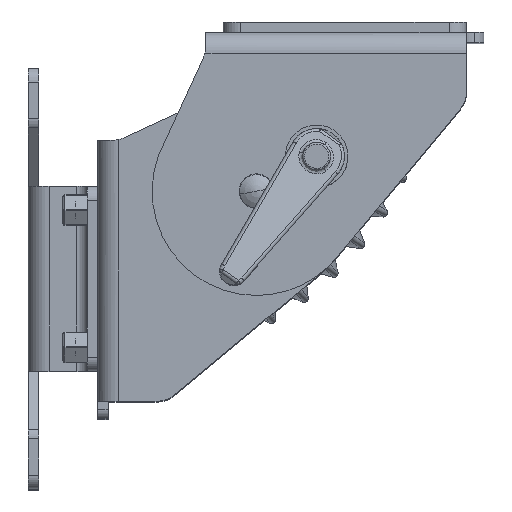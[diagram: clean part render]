
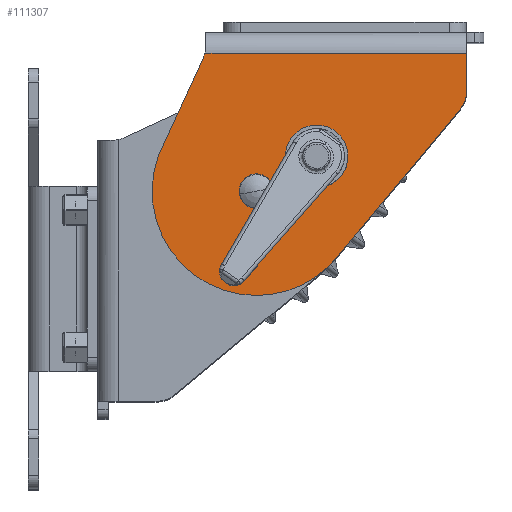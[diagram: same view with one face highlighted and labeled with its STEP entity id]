
A CAD part, top view. The second image highlights one B-rep face of the part: STEP entity #111307.
In plain terms, the highlighted planar face has unit normal (0, 0, 1) as drawn and (1, 0, 0) by its records, which use the part's own axes.
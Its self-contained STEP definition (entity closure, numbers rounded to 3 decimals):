
#617 = DIRECTION ( 'NONE',  ( 0., 1., 0. ) ) ;
#3077 = VERTEX_POINT ( 'NONE', #95033 ) ;
#4394 = DIRECTION ( 'NONE',  ( 1., 0., 0. ) ) ;
#6875 = VECTOR ( 'NONE', #41892, 1000. ) ;
#7262 = DIRECTION ( 'NONE',  ( 0., 0., -1. ) ) ;
#12425 = EDGE_CURVE ( 'NONE', #3077, #238455, #14275, .T. ) ;
#14275 = CIRCLE ( 'NONE', #48404, 8. ) ;
#15811 = ORIENTED_EDGE ( 'NONE', *, *, #273727, .F. ) ;
#17151 = CARTESIAN_POINT ( 'NONE',  ( 988.398, 293.008, -6. ) ) ;
#19291 = VERTEX_POINT ( 'NONE', #132619 ) ;
#21865 = EDGE_CURVE ( 'NONE', #19291, #111911, #114051, .T. ) ;
#29605 = EDGE_CURVE ( 'NONE', #104891, #79700, #173375, .T. ) ;
#30933 = VERTEX_POINT ( 'NONE', #84661 ) ;
#33000 = CARTESIAN_POINT ( 'NONE',  ( 988.398, 229.384, -42.501 ) ) ;
#33747 = CARTESIAN_POINT ( 'NONE',  ( 988.398, 229.384, -48.901 ) ) ;
#38878 = CIRCLE ( 'NONE', #169400, 8.1 ) ;
#38989 = VERTEX_POINT ( 'NONE', #48142 ) ;
#41161 = VECTOR ( 'NONE', #252661, 1000. ) ;
#41892 = DIRECTION ( 'NONE',  ( 0., -0.419, -0.908 ) ) ;
#43208 = VERTEX_POINT ( 'NONE', #99432 ) ;
#46799 = CIRCLE ( 'NONE', #103604, 30. ) ;
#47359 = CARTESIAN_POINT ( 'NONE',  ( 988.398, 232.584, -45.701 ) ) ;
#48142 = CARTESIAN_POINT ( 'NONE',  ( 988.398, 217.274, -7.442 ) ) ;
#48151 = CARTESIAN_POINT ( 'NONE',  ( 988.398, 285.008, -17.095 ) ) ;
#48404 = AXIS2_PLACEMENT_3D ( 'NONE', #48151, #109382, #69483 ) ;
#48926 = CARTESIAN_POINT ( 'NONE',  ( 988.398, 291.158, -22.212 ) ) ;
#49422 = EDGE_CURVE ( 'NONE', #238455, #200160, #213658, .T. ) ;
#50636 = DIRECTION ( 'NONE',  ( -1., 0., 0. ) ) ;
#63189 = LINE ( 'NONE', #268285, #6875 ) ;
#64739 = EDGE_CURVE ( 'NONE', #79700, #230853, #46799, .T. ) ;
#64860 = CARTESIAN_POINT ( 'NONE',  ( 988.398, 204.502, -35.149 ) ) ;
#65596 = VECTOR ( 'NONE', #264100, 1000. ) ;
#69483 = DIRECTION ( 'NONE',  ( 0., 0., -1. ) ) ;
#70965 = CARTESIAN_POINT ( 'NONE',  ( 988.398, 293.008, -17.095 ) ) ;
#71970 = ORIENTED_EDGE ( 'NONE', *, *, #123021, .T. ) ;
#73808 = CARTESIAN_POINT ( 'NONE',  ( 988.398, 232.584, -75.701 ) ) ;
#79700 = VERTEX_POINT ( 'NONE', #73808 ) ;
#80024 = CARTESIAN_POINT ( 'NONE',  ( 988.398, 249.905, -27.601 ) ) ;
#84661 = CARTESIAN_POINT ( 'NONE',  ( 988.398, 217.778, -6. ) ) ;
#86035 = VERTEX_POINT ( 'NONE', #80024 ) ;
#86556 = FACE_BOUND ( 'NONE', #91134, .T. ) ;
#90810 = LINE ( 'NONE', #240573, #193846 ) ;
#91134 = EDGE_LOOP ( 'NONE', ( #96482, #15811 ) ) ;
#93377 = CARTESIAN_POINT ( 'NONE',  ( 988.398, 249.905, -35.701 ) ) ;
#93903 = CARTESIAN_POINT ( 'NONE',  ( 988.398, 229.384, -48.901 ) ) ;
#95014 = CARTESIAN_POINT ( 'NONE',  ( 988.398, 235.784, -42.501 ) ) ;
#95033 = CARTESIAN_POINT ( 'NONE',  ( 988.398, 291.158, -22.212 ) ) ;
#95244 = ORIENTED_EDGE ( 'NONE', *, *, #21865, .F. ) ;
#95469 = AXIS2_PLACEMENT_3D ( 'NONE', #262127, #50636, #135093 ) ;
#96482 = ORIENTED_EDGE ( 'NONE', *, *, #246410, .F. ) ;
#97780 = CARTESIAN_POINT ( 'NONE',  ( 988.398, 293.008, -6. ) ) ;
#98350 = DIRECTION ( 'NONE',  ( 0., 0., -1. ) ) ;
#98408 = EDGE_CURVE ( 'NONE', #111911, #182643, #90810, .T. ) ;
#99432 = CARTESIAN_POINT ( 'NONE',  ( 988.398, 249.905, -43.801 ) ) ;
#99982 = LINE ( 'NONE', #214769, #179591 ) ;
#103604 = AXIS2_PLACEMENT_3D ( 'NONE', #47359, #237549, #174399 ) ;
#104891 = VERTEX_POINT ( 'NONE', #64860 ) ;
#105094 = DIRECTION ( 'NONE',  ( 0., 1., 0. ) ) ;
#108218 = EDGE_LOOP ( 'NONE', ( #176818, #95244, #235056, #129176 ) ) ;
#108312 = ORIENTED_EDGE ( 'NONE', *, *, #119712, .T. ) ;
#109382 = DIRECTION ( 'NONE',  ( 1., 0., 0. ) ) ;
#110930 = DIRECTION ( 'NONE',  ( 0., 0., -1. ) ) ;
#111307 = ADVANCED_FACE ( 'NONE', ( #123109, #199469, #86556 ), #116990, .T. ) ;
#111911 = VERTEX_POINT ( 'NONE', #95014 ) ;
#114051 = LINE ( 'NONE', #180324, #41161 ) ;
#114930 = ORIENTED_EDGE ( 'NONE', *, *, #12425, .T. ) ;
#116990 = PLANE ( 'NONE',  #253196 ) ;
#118266 = CIRCLE ( 'NONE', #154282, 8.1 ) ;
#119712 = EDGE_CURVE ( 'NONE', #38989, #104891, #63189, .T. ) ;
#120739 = VERTEX_POINT ( 'NONE', #93903 ) ;
#122103 = LINE ( 'NONE', #48926, #65596 ) ;
#123021 = EDGE_CURVE ( 'NONE', #30933, #38989, #202173, .T. ) ;
#123109 = FACE_OUTER_BOUND ( 'NONE', #183313, .T. ) ;
#124616 = LINE ( 'NONE', #33747, #230799 ) ;
#127601 = DIRECTION ( 'NONE',  ( 0., 0., 1. ) ) ;
#129176 = ORIENTED_EDGE ( 'NONE', *, *, #254054, .F. ) ;
#132012 = VECTOR ( 'NONE', #105094, 1000. ) ;
#132619 = CARTESIAN_POINT ( 'NONE',  ( 988.398, 235.784, -48.901 ) ) ;
#135093 = DIRECTION ( 'NONE',  ( 0., 0., -1. ) ) ;
#136525 = ORIENTED_EDGE ( 'NONE', *, *, #49422, .T. ) ;
#137838 = AXIS2_PLACEMENT_3D ( 'NONE', #138877, #223292, #244627 ) ;
#138877 = CARTESIAN_POINT ( 'NONE',  ( 988.398, 232.584, -45.701 ) ) ;
#147330 = EDGE_CURVE ( 'NONE', #230853, #3077, #122103, .T. ) ;
#148014 = CARTESIAN_POINT ( 'NONE',  ( 988.398, 293.008, -0.499 ) ) ;
#152450 = DIRECTION ( 'NONE',  ( 0., -1., 0. ) ) ;
#154282 = AXIS2_PLACEMENT_3D ( 'NONE', #93377, #261305, #7262 ) ;
#159639 = DIRECTION ( 'NONE',  ( 1., 0., 0. ) ) ;
#161806 = EDGE_CURVE ( 'NONE', #120739, #19291, #99982, .T. ) ;
#169400 = AXIS2_PLACEMENT_3D ( 'NONE', #261172, #4394, #110930 ) ;
#173375 = CIRCLE ( 'NONE', #137838, 30. ) ;
#174399 = DIRECTION ( 'NONE',  ( 0., 0., -1. ) ) ;
#176818 = ORIENTED_EDGE ( 'NONE', *, *, #98408, .F. ) ;
#179591 = VECTOR ( 'NONE', #617, 1000. ) ;
#180324 = CARTESIAN_POINT ( 'NONE',  ( 988.398, 235.784, -42.501 ) ) ;
#182643 = VERTEX_POINT ( 'NONE', #33000 ) ;
#182850 = ORIENTED_EDGE ( 'NONE', *, *, #270405, .F. ) ;
#183313 = EDGE_LOOP ( 'NONE', ( #182850, #71970, #108312, #190150, #253961, #251404, #114930, #136525 ) ) ;
#190150 = ORIENTED_EDGE ( 'NONE', *, *, #29605, .T. ) ;
#191610 = LINE ( 'NONE', #17151, #132012 ) ;
#193846 = VECTOR ( 'NONE', #152450, 1000. ) ;
#199469 = FACE_BOUND ( 'NONE', #108218, .T. ) ;
#200160 = VERTEX_POINT ( 'NONE', #97780 ) ;
#202173 = CIRCLE ( 'NONE', #95469, 8. ) ;
#213658 = LINE ( 'NONE', #148014, #259954 ) ;
#214769 = CARTESIAN_POINT ( 'NONE',  ( 988.398, 235.784, -48.901 ) ) ;
#223292 = DIRECTION ( 'NONE',  ( 1., 0., 0. ) ) ;
#223804 = CARTESIAN_POINT ( 'NONE',  ( 988.398, 255.891, -64.591 ) ) ;
#230799 = VECTOR ( 'NONE', #244324, 1000. ) ;
#230853 = VERTEX_POINT ( 'NONE', #223804 ) ;
#235056 = ORIENTED_EDGE ( 'NONE', *, *, #161806, .F. ) ;
#237549 = DIRECTION ( 'NONE',  ( 1., 0., 0. ) ) ;
#238455 = VERTEX_POINT ( 'NONE', #70965 ) ;
#240573 = CARTESIAN_POINT ( 'NONE',  ( 988.398, 229.384, -42.501 ) ) ;
#244324 = DIRECTION ( 'NONE',  ( 0., 0., -1. ) ) ;
#244627 = DIRECTION ( 'NONE',  ( 0., 0., -1. ) ) ;
#246410 = EDGE_CURVE ( 'NONE', #43208, #86035, #118266, .T. ) ;
#251404 = ORIENTED_EDGE ( 'NONE', *, *, #147330, .T. ) ;
#252661 = DIRECTION ( 'NONE',  ( 0., 0., 1. ) ) ;
#253196 = AXIS2_PLACEMENT_3D ( 'NONE', #265379, #159639, #98350 ) ;
#253961 = ORIENTED_EDGE ( 'NONE', *, *, #64739, .T. ) ;
#254054 = EDGE_CURVE ( 'NONE', #182643, #120739, #124616, .T. ) ;
#259954 = VECTOR ( 'NONE', #127601, 1000. ) ;
#261172 = CARTESIAN_POINT ( 'NONE',  ( 988.398, 249.905, -35.701 ) ) ;
#261305 = DIRECTION ( 'NONE',  ( 1., 0., 0. ) ) ;
#262127 = CARTESIAN_POINT ( 'NONE',  ( 988.398, 210.008, -4.093 ) ) ;
#264100 = DIRECTION ( 'NONE',  ( 0., 0.64, 0.769 ) ) ;
#265379 = CARTESIAN_POINT ( 'NONE',  ( 988.398, 293.008, 4.501 ) ) ;
#268285 = CARTESIAN_POINT ( 'NONE',  ( 988.398, 217.274, -7.442 ) ) ;
#270405 = EDGE_CURVE ( 'NONE', #30933, #200160, #191610, .T. ) ;
#273727 = EDGE_CURVE ( 'NONE', #86035, #43208, #38878, .T. ) ;
